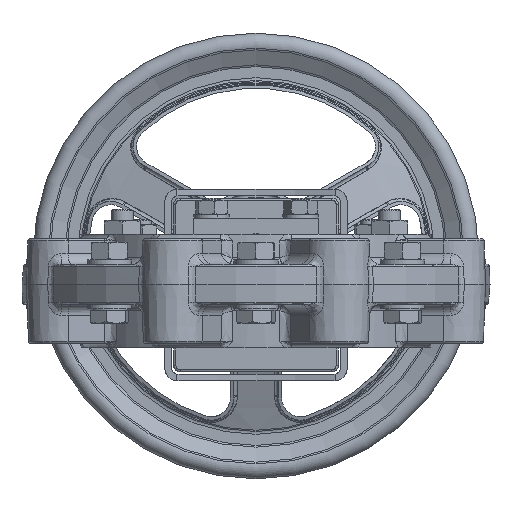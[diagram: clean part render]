
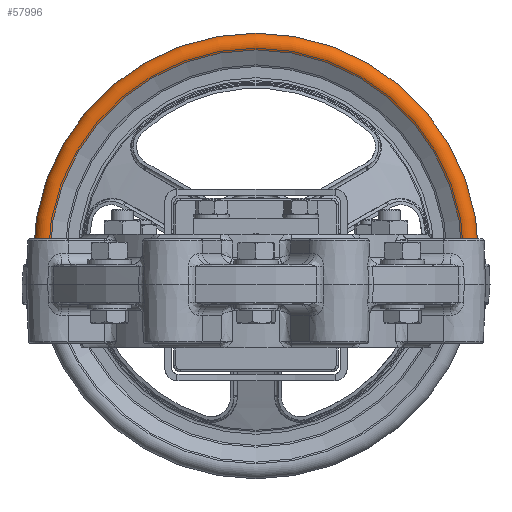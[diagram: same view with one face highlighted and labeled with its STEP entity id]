
A CAD part, front view. The second image highlights one B-rep face of the part: STEP entity #57996.
In plain terms, the highlighted toroidal (fillet/blend) face has major radius 95 mm and minor radius 5 mm.
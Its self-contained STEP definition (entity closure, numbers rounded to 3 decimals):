
#2539 = CARTESIAN_POINT ( 'NONE',  ( 0., 390.5, 12.75 ) ) ;
#3896 = AXIS2_PLACEMENT_3D ( 'NONE', #2539, #100373, #10858 ) ;
#4762 = CARTESIAN_POINT ( 'NONE',  ( 0., 386.17, 12.75 ) ) ;
#8677 = TOROIDAL_SURFACE ( 'NONE', #3896, 95., 5. ) ;
#9828 = CIRCLE ( 'NONE', #30929, 5. ) ;
#10858 = DIRECTION ( 'NONE',  ( 1., 0., 0. ) ) ;
#11648 = AXIS2_PLACEMENT_3D ( 'NONE', #71852, #22631, #80091 ) ;
#12301 = CARTESIAN_POINT ( 'NONE',  ( -92.5, 386.17, 12.75 ) ) ;
#13107 = DIRECTION ( 'NONE',  ( 1., 0., 0. ) ) ;
#14246 = ORIENTED_EDGE ( 'NONE', *, *, #50548, .F. ) ;
#22631 = DIRECTION ( 'NONE',  ( 0., 1., 0. ) ) ;
#30648 = FACE_OUTER_BOUND ( 'NONE', #67300, .T. ) ;
#30929 = AXIS2_PLACEMENT_3D ( 'NONE', #43523, #100949, #51797 ) ;
#43523 = CARTESIAN_POINT ( 'NONE',  ( 95., 390.5, 12.75 ) ) ;
#46696 = CARTESIAN_POINT ( 'NONE',  ( -100., 390.5, 12.75 ) ) ;
#46793 = DIRECTION ( 'NONE',  ( 0., 0., -1. ) ) ;
#50494 = EDGE_CURVE ( 'NONE', #97783, #66518, #64084, .T. ) ;
#50548 = EDGE_CURVE ( 'NONE', #66518, #89112, #99959, .T. ) ;
#51797 = DIRECTION ( 'NONE',  ( 0., -1., 0. ) ) ;
#55485 = ORIENTED_EDGE ( 'NONE', *, *, #59173, .T. ) ;
#57996 = ADVANCED_FACE ( 'NONE', ( #30648 ), #8677, .T. ) ;
#59173 = EDGE_CURVE ( 'NONE', #87295, #89112, #9828, .T. ) ;
#62461 = DIRECTION ( 'NONE',  ( 0., 1., 0. ) ) ;
#64084 = CIRCLE ( 'NONE', #90829, 5. ) ;
#66518 = VERTEX_POINT ( 'NONE', #46696 ) ;
#67300 = EDGE_LOOP ( 'NONE', ( #77105, #105489, #55485, #14246 ) ) ;
#71852 = CARTESIAN_POINT ( 'NONE',  ( 0., 390.5, 12.75 ) ) ;
#77105 = ORIENTED_EDGE ( 'NONE', *, *, #50494, .F. ) ;
#80091 = DIRECTION ( 'NONE',  ( 1., 0., 0. ) ) ;
#85016 = CARTESIAN_POINT ( 'NONE',  ( 92.5, 386.17, 12.75 ) ) ;
#87295 = VERTEX_POINT ( 'NONE', #85016 ) ;
#87487 = CIRCLE ( 'NONE', #91615, 92.5 ) ;
#89112 = VERTEX_POINT ( 'NONE', #94568 ) ;
#90829 = AXIS2_PLACEMENT_3D ( 'NONE', #95976, #46793, #104204 ) ;
#91615 = AXIS2_PLACEMENT_3D ( 'NONE', #4762, #62461, #13107 ) ;
#94568 = CARTESIAN_POINT ( 'NONE',  ( 100., 390.5, 12.75 ) ) ;
#95976 = CARTESIAN_POINT ( 'NONE',  ( -95., 390.5, 12.75 ) ) ;
#97783 = VERTEX_POINT ( 'NONE', #12301 ) ;
#99959 = CIRCLE ( 'NONE', #11648, 100. ) ;
#100373 = DIRECTION ( 'NONE',  ( 0., 1., 0. ) ) ;
#100949 = DIRECTION ( 'NONE',  ( 0., 0., 1. ) ) ;
#104204 = DIRECTION ( 'NONE',  ( -1., 0., 0. ) ) ;
#105409 = EDGE_CURVE ( 'NONE', #97783, #87295, #87487, .T. ) ;
#105489 = ORIENTED_EDGE ( 'NONE', *, *, #105409, .T. ) ;
